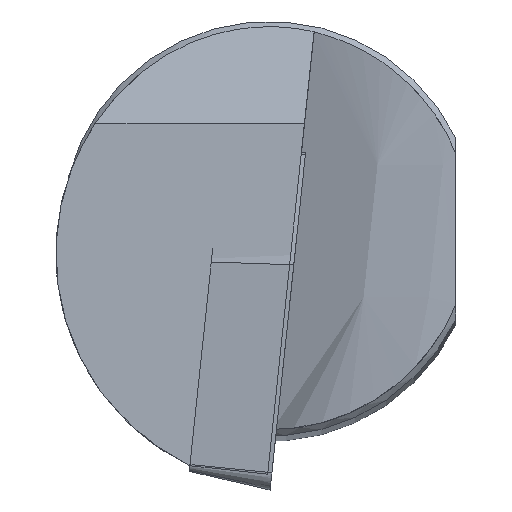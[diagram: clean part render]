
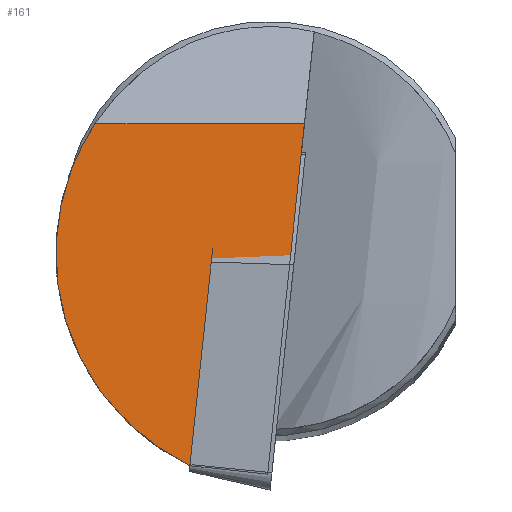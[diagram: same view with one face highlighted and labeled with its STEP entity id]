
A CAD part, top view. The second image highlights one B-rep face of the part: STEP entity #161.
In plain terms, the highlighted planar face has unit normal (0, 0.053, 0.999).
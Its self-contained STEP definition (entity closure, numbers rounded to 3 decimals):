
#97=ELLIPSE('',#531,11.339,11.323);
#103=B_SPLINE_CURVE_WITH_KNOTS('',3,(#731,#732,#733,#734),.UNSPECIFIED.,
 .F.,.F.,(4,4),(0.,1.),.UNSPECIFIED.);
#137=FACE_OUTER_BOUND('',#213,.T.);
#161=ADVANCED_FACE('',(#137),#183,.F.);
#183=PLANE('',#532);
#213=EDGE_LOOP('',(#329,#330,#331,#332));
#245=LINE('',#736,#272);
#246=LINE('',#738,#273);
#272=VECTOR('',#606,1.);
#273=VECTOR('',#607,1.);
#329=ORIENTED_EDGE('',*,*,#464,.T.);
#330=ORIENTED_EDGE('',*,*,#465,.F.);
#331=ORIENTED_EDGE('',*,*,#466,.T.);
#332=ORIENTED_EDGE('',*,*,#467,.F.);
#417=VERTEX_POINT('',#723);
#419=VERTEX_POINT('',#735);
#420=VERTEX_POINT('',#737);
#421=VERTEX_POINT('',#739);
#464=EDGE_CURVE('',#417,#419,#103,.T.);
#465=EDGE_CURVE('',#420,#419,#245,.T.);
#466=EDGE_CURVE('',#420,#421,#246,.T.);
#467=EDGE_CURVE('',#417,#421,#97,.T.);
#531=AXIS2_PLACEMENT_3D('',#740,#608,#609);
#532=AXIS2_PLACEMENT_3D('',#741,#610,#611);
#606=DIRECTION('',(-0.104,-0.993,0.052));
#607=DIRECTION('',(-1.,0.,0.));
#608=DIRECTION('',(0.,-0.053,-0.999));
#609=DIRECTION('',(0.,-0.999,0.053));
#610=DIRECTION('',(0.,-0.053,-0.999));
#611=DIRECTION('',(0.,0.999,-0.053));
#723=CARTESIAN_POINT('',(-3.831,-11.481,-0.475));
#731=CARTESIAN_POINT('',(-3.831,-11.481,-0.475));
#732=CARTESIAN_POINT('',(-2.582,-11.617,-0.468));
#733=CARTESIAN_POINT('',(-1.332,-11.753,-0.46));
#734=CARTESIAN_POINT('',(-0.083,-11.889,-0.453));
#735=CARTESIAN_POINT('',(-0.083,-11.889,-0.453));
#736=CARTESIAN_POINT('',(-0.038,-11.46,-0.476));
#737=CARTESIAN_POINT('',(1.692,5.,-1.343));
#738=CARTESIAN_POINT('',(-12.4,5.,-1.343));
#739=CARTESIAN_POINT('',(-8.409,5.,-1.343));
#740=CARTESIAN_POINT('',(1.029,-1.255,-1.014));
#741=CARTESIAN_POINT('',(-12.4,-20.49,0.));
